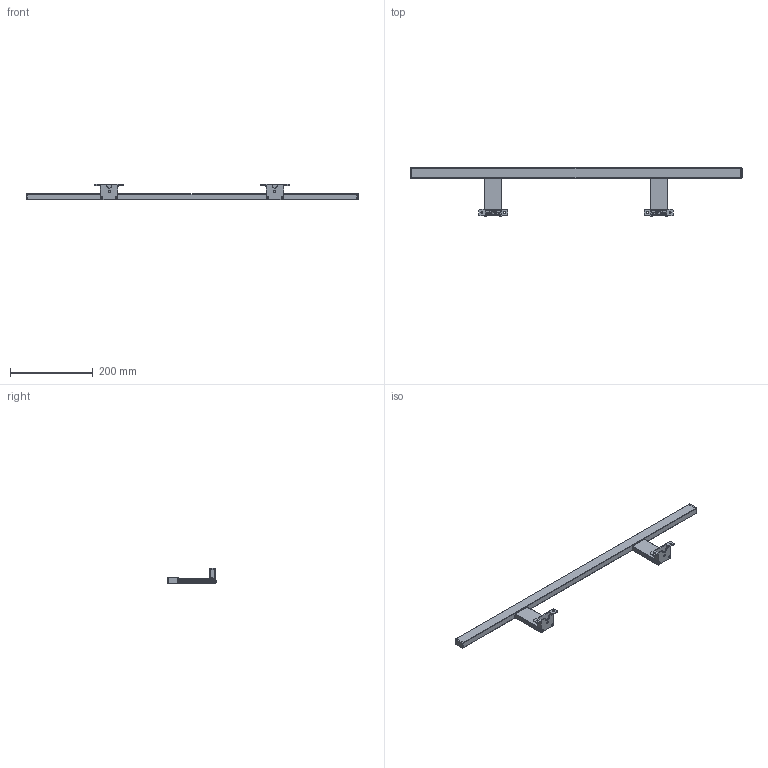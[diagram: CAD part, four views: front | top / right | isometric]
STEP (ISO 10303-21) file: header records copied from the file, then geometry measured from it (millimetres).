
FILE_DESCRIPTION (( 'STEP AP203' ), '1' );
FILE_NAME ('2000648_Lilium Emotopn 800.STEP', '2021-01-21T12:23:16', ( '' ), ( '' ), 'SwSTEP 2.0', 'SolidWorks 2018', '' );
FILE_SCHEMA (( 'CONFIG_CONTROL_DESIGN' ));
Length unit declared in the file: millimetre
Products named in the file (1): 2000648_Lilium Emotopn 800
Bounding box: 802 x 116.5 x 37.05 mm (x, y, z)
Volume: 330358.2 mm3; surface area: 122578.2 mm2
Topology: 1 solids, 1 shells, 556 faces, 1484 edges, 928 vertices
Faces by surface type: plane 274, cylinder 192, bspline 48, cone 34, torus 8
Entity records: 20951 total; most frequent: CARTESIAN_POINT 7671, ORIENTED_EDGE 2968, DIRECTION 2450, EDGE_CURVE 1484, VERTEX_POINT 928, VECTOR 856, LINE 856, AXIS2_PLACEMENT_3D 797
